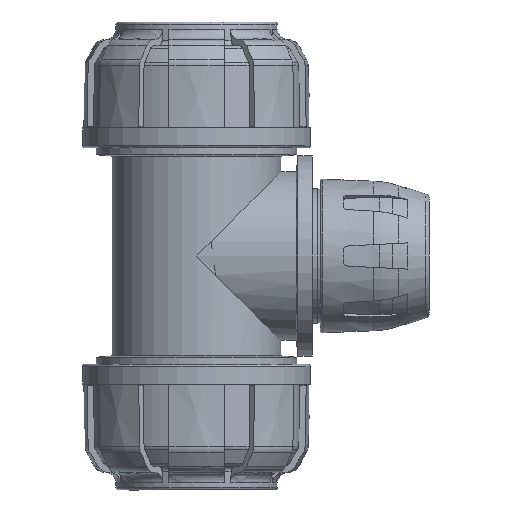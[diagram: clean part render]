
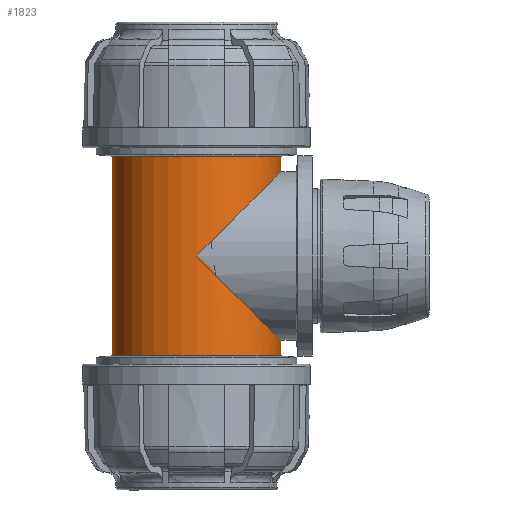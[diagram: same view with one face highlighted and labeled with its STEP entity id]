
A CAD part, left-side view. The second image highlights one B-rep face of the part: STEP entity #1823.
In plain terms, the highlighted cylindrical face has radius 41 mm (diameter 82 mm), a full revolution.
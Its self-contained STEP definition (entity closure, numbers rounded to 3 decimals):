
#1823 = ADVANCED_FACE( '', ( #3891, #3892, #3893 ), #3894, .T. );
#3891 = FACE_BOUND( '', #6380, .T. );
#3892 = FACE_OUTER_BOUND( '', #6381, .T. );
#3893 = FACE_OUTER_BOUND( '', #6382, .T. );
#3894 = CYLINDRICAL_SURFACE( '', #6383, 41. );
#6380 = EDGE_LOOP( '', ( #11781, #11782 ) );
#6381 = EDGE_LOOP( '', ( #11783 ) );
#6382 = EDGE_LOOP( '', ( #11784 ) );
#6383 = AXIS2_PLACEMENT_3D( '', #11785, #11786, #11787 );
#11781 = ORIENTED_EDGE( '', *, *, #14892, .T. );
#11782 = ORIENTED_EDGE( '', *, *, #14891, .T. );
#11783 = ORIENTED_EDGE( '', *, *, #15775, .T. );
#11784 = ORIENTED_EDGE( '', *, *, #14997, .F. );
#11785 = CARTESIAN_POINT( '', ( 0., 0., -126. ) );
#11786 = DIRECTION( '', ( 0., 0., -1. ) );
#11787 = DIRECTION( '', ( 1., 0., 0. ) );
#14891 = EDGE_CURVE( '', #18300, #18301, #18302, .F. );
#14892 = EDGE_CURVE( '', #18301, #18300, #18303, .F. );
#14997 = EDGE_CURVE( '', #18471, #18471, #18472, .T. );
#15775 = EDGE_CURVE( '', #19613, #19613, #19614, .T. );
#18300 = VERTEX_POINT( '', #24623 );
#18301 = VERTEX_POINT( '', #24624 );
#18302 = ELLIPSE( '', #24625, 57.983, 41. );
#18303 = ELLIPSE( '', #24626, 57.983, 41. );
#18471 = VERTEX_POINT( '', #25071 );
#18472 = CIRCLE( '', #25072, 41. );
#19613 = VERTEX_POINT( '', #27762 );
#19614 = CIRCLE( '', #27763, 41. );
#24623 = CARTESIAN_POINT( '', ( 41., 0., -89.5 ) );
#24624 = CARTESIAN_POINT( '', ( -41., 0., -89.5 ) );
#24625 = AXIS2_PLACEMENT_3D( '', #30966, #30967, #30968 );
#24626 = AXIS2_PLACEMENT_3D( '', #30969, #30970, #30971 );
#25071 = CARTESIAN_POINT( '', ( 41., 0., -40.932 ) );
#25072 = AXIS2_PLACEMENT_3D( '', #31065, #31066, #31067 );
#27762 = CARTESIAN_POINT( '', ( 41., 0., -138.068 ) );
#27763 = AXIS2_PLACEMENT_3D( '', #31815, #31816, #31817 );
#30966 = CARTESIAN_POINT( '', ( 0., 0., -89.5 ) );
#30967 = DIRECTION( '', ( 0., -0.707, 0.707 ) );
#30968 = DIRECTION( '', ( 0., -0.707, -0.707 ) );
#30969 = CARTESIAN_POINT( '', ( 0., 0., -89.5 ) );
#30970 = DIRECTION( '', ( 0., -0.707, -0.707 ) );
#30971 = DIRECTION( '', ( 0., -0.707, 0.707 ) );
#31065 = CARTESIAN_POINT( '', ( 0., 0., -40.932 ) );
#31066 = DIRECTION( '', ( 0., 0., 1. ) );
#31067 = DIRECTION( '', ( 1., 0., 0. ) );
#31815 = CARTESIAN_POINT( '', ( 0., 0., -138.068 ) );
#31816 = DIRECTION( '', ( 0., 0., 1. ) );
#31817 = DIRECTION( '', ( 1., 0., 0. ) );
